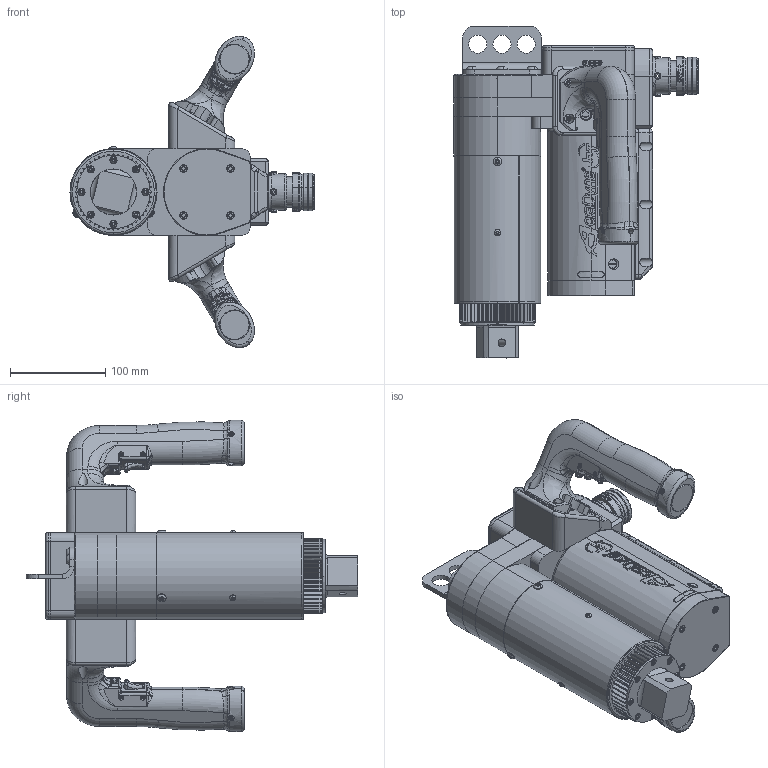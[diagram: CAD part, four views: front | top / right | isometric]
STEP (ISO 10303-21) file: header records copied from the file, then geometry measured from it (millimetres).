
FILE_DESCRIPTION (( 'STEP AP214' ), '1' );
FILE_NAME ('AEJ4U885000BDL.001.STEP', '2024-02-22T00:53:32', ( '' ), ( '' ), 'SwSTEP 2.0', 'SolidWorks 2023', '' );
FILE_SCHEMA (( 'AUTOMOTIVE_DESIGN' ));
Products named in the file (1): AEJ4U885000BDL.001
Bounding box: 256.73 x 349.17 x 327.36 mm (x, y, z)
Surface area: 444880.9 mm2 (no closed solid volume)
Topology: 0 solids, 166 shells, 1990 faces, 7303 edges, 5256 vertices
Faces by surface type: cylinder 696, plane 543, bspline 354, torus 266, cone 108, sphere 23
Entity records: 101358 total; most frequent: CARTESIAN_POINT 44507, DIRECTION 11023, ORIENTED_EDGE 11022, EDGE_CURVE 7263, VERTEX_POINT 5256, AXIS2_PLACEMENT_3D 4189, LINE 2645, VECTOR 2645
